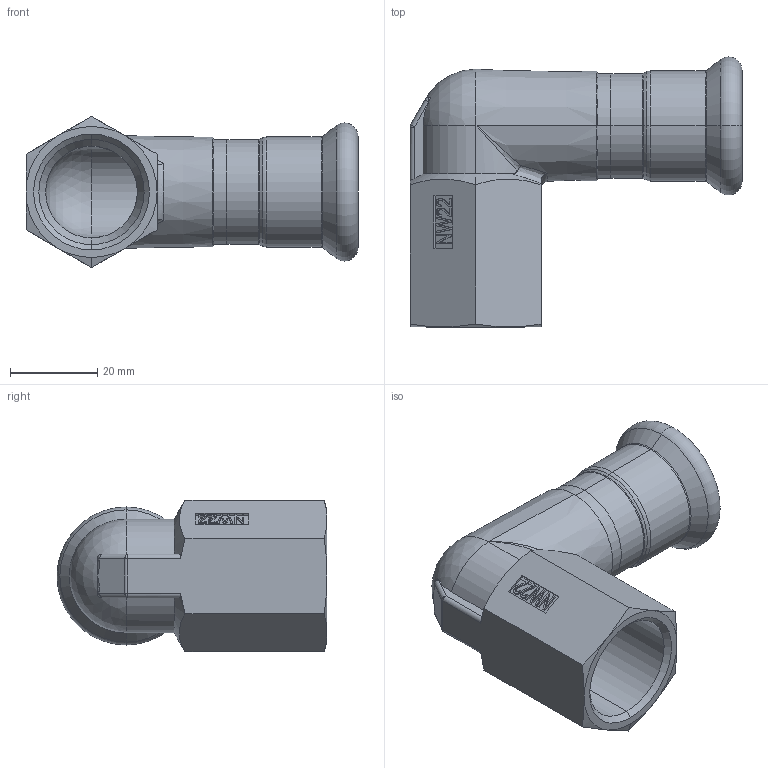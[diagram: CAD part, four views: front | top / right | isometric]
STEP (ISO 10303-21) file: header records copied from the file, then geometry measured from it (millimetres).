
FILE_DESCRIPTION (( 'STEP AP203' ), '1' );
FILE_NAME ('GDA5293.STEP', '2019-01-15T05:24:45', ( '' ), ( '' ), 'SwSTEP 2.0', 'SolidWorks 2015', '' );
FILE_SCHEMA (( 'CONFIG_CONTROL_DESIGN' ));
Length unit declared in the file: millimetre
Products named in the file (3): T-ｉ-01-22; GDA5293; OD22｡ﾁ0.75
Assembly tree (2 placements, depth 2):
  GDA5293
    OD22｡ﾁ0.75
    T-ｉ-01-22
Bounding box: 76 x 61.8 x 34.64 mm (x, y, z)
Volume: 23245.5 mm3; surface area: 17954.9 mm2
Topology: 2 solids, 2 shells, 153 faces, 366 edges, 218 vertices
Faces by surface type: plane 56, cylinder 30, cone 26, bspline 18, torus 17, sphere 6
Entity records: 5984 total; most frequent: CARTESIAN_POINT 2298, ORIENTED_EDGE 720, DIRECTION 678, EDGE_CURVE 360, AXIS2_PLACEMENT_3D 249, VERTEX_POINT 217, VECTOR 180, LINE 180
